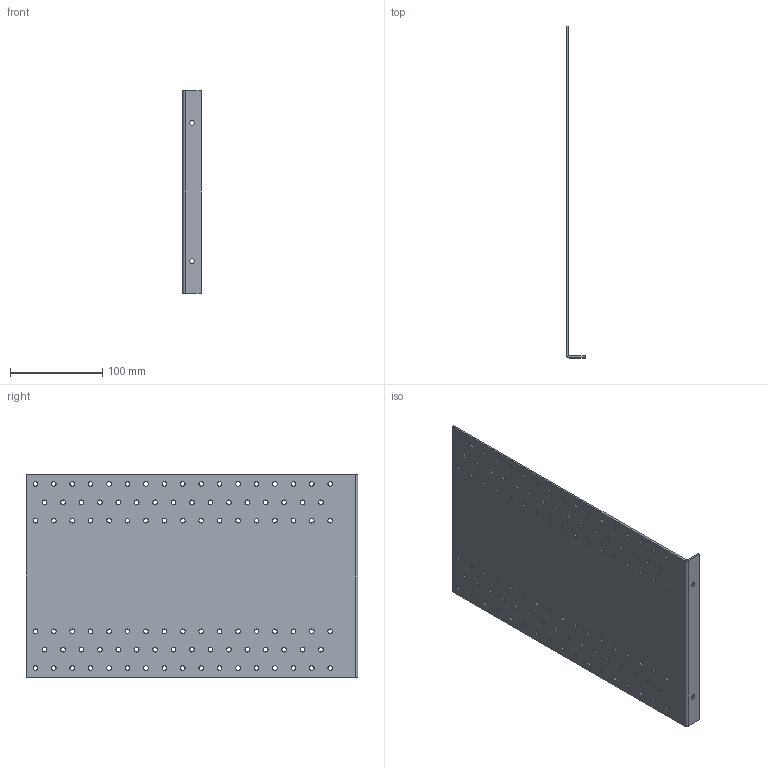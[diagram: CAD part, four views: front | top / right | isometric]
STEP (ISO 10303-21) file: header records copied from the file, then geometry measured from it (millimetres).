
FILE_DESCRIPTION (( 'STEP AP203' ), '1' );
FILE_NAME ('236.STEP', '2020-04-17T12:58:42', ( '' ), ( '' ), 'SwSTEP 2.0', 'SolidWorks 2013', '' );
FILE_SCHEMA (( 'CONFIG_CONTROL_DESIGN' ));
Length unit declared in the file: millimetre
Products named in the file (1): 236
Bounding box: 20 x 360 x 220 mm (x, y, z)
Volume: 161987.4 mm3; surface area: 167580.8 mm2
Topology: 1 solids, 1 shells, 218 faces, 640 edges, 424 vertices
Faces by surface type: cylinder 206, plane 12
Entity records: 7977 total; most frequent: DIRECTION 1490, CARTESIAN_POINT 1283, ORIENTED_EDGE 1280, EDGE_CURVE 640, AXIS2_PLACEMENT_3D 631, VERTEX_POINT 424, EDGE_LOOP 422, CIRCLE 412
